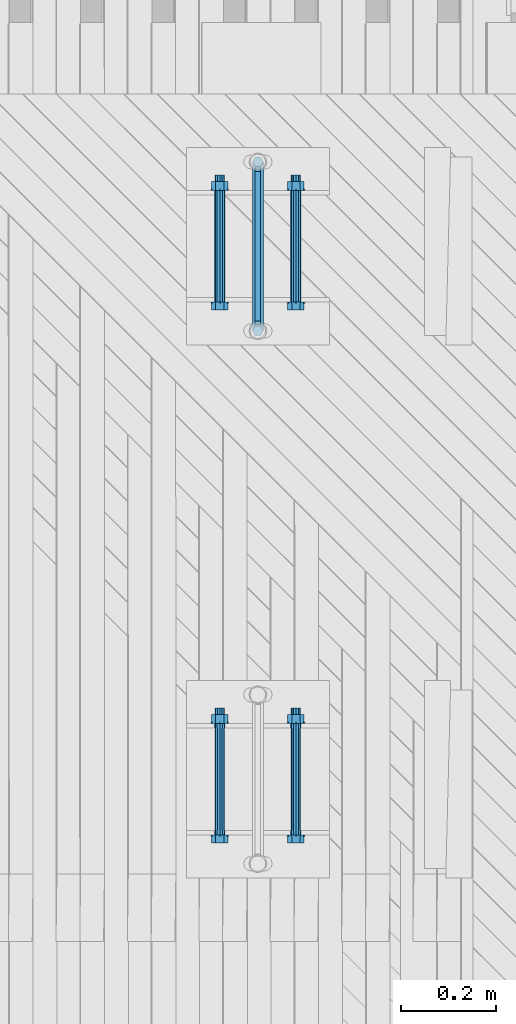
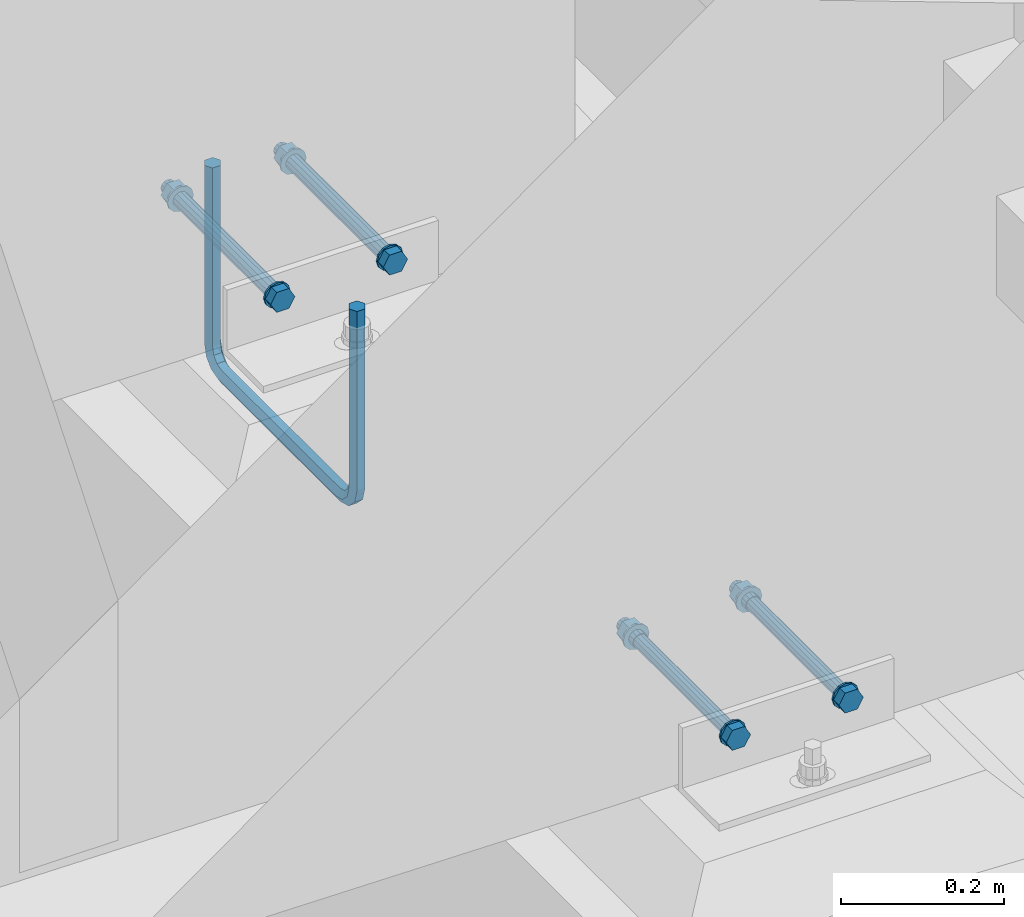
# One storey, part 3 of 47: 2 mechanical fasteners, 2 reinforcing bars.
"""IFC2X3 building model written with IfcOpenShell, lengths in millimetres."""

from ifc_helpers import new_model, si_unit, frame, origin_with_axes, place, context, subcontext, project, spatial, faceted_brep, source, transform, mapped, material, type_object, element, save


model = new_model("IFC2X3")

# Units and contexts
model_context = context("Model", 3, precision=1e-05, world=origin_with_axes())
body_context = subcontext(model_context, "Body", "Model", "MODEL_VIEW")
ifc_project = project(units=[si_unit("LENGTHUNIT", "METRE", prefix="MILLI"), si_unit("AREAUNIT", "SQUARE_METRE"), si_unit("VOLUMEUNIT", "CUBIC_METRE"), si_unit("MASSUNIT", "GRAM", prefix="KILO"), si_unit("TIMEUNIT", "SECOND"), si_unit("PLANEANGLEUNIT", "RADIAN"), si_unit("SOLIDANGLEUNIT", "STERADIAN"), si_unit("THERMODYNAMICTEMPERATUREUNIT", "DEGREE_CELSIUS"), si_unit("LUMINOUSINTENSITYUNIT", "LUMEN")], contexts=[model_context])

# Site, building, storey
site_placement = place(None, origin_with_axes())
site = spatial("IfcSite", under=ifc_project, at=site_placement, Name="Undefined", CompositionType="ELEMENT")
building_placement = place(site_placement, origin_with_axes())
building = spatial("IfcBuilding", under=site, at=building_placement, Name="Undefined", CompositionType="ELEMENT")
storey_placement = place(building_placement, origin_with_axes())
storey = spatial("IfcBuildingStorey", under=building, at=storey_placement, Name="Undefined", CompositionType="ELEMENT", Elevation=0.0)

# Reinforcing bars
ifc_material_1 = material(Name="A500HW")
shared_shape_1 = source(origin_with_axes(), body_context, "Body", "Brep", [
    faceted_brep([(9.95929214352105, -5.74999999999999, -1.31778448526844e-16), (9.95929214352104, 5.75000000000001, -1.31778448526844e-16), (-4.46864767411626e-15, 11.5, 5.31556664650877e-32), (-9.95929214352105, 5.75, 1.31778448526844e-16), (-9.95929214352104, -5.75, 1.31778448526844e-16), (0.0, -11.5, 0.0), (-9.95929214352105, -5.75, -268.5), (-3.5527136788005e-15, -11.5, -268.5), (-9.95929214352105, 5.75, -268.5), (-8.02136135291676e-15, 11.5, -268.5), (9.95929214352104, 5.75000000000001, -268.5), (9.95929214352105, -5.74999999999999, -268.5), (-4.40480021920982, -5.75, -289.229646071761), (4.22019978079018, -11.5, -284.25), (-4.40480021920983, 5.75, -289.229646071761), (4.22019978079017, 11.5, -284.25), (12.8451997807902, 5.75000000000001, -279.27035392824), (12.8451997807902, -5.74999999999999, -279.27035392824), (10.7703539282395, -5.75, -304.40480021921), (15.75, -11.5, -295.77980021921), (10.7703539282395, 5.75, -304.40480021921), (15.75, 11.5, -295.77980021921), (20.7296460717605, 5.75000000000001, -287.15480021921), (20.7296460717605, -5.74999999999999, -287.15480021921), (31.5, -5.75, -309.959292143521), (31.5, -11.5, -300.0), (31.5, 5.75, -309.959292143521), (31.5, 11.5, -300.0), (31.5, 5.75000000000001, -290.040707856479), (31.5, -5.74999999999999, -290.040707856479), (323.5, -5.75, -309.959292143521), (323.5, -11.5, -300.0), (323.5, 5.75, -309.959292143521), (323.5, 11.5, -300.0), (323.5, 5.75000000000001, -290.040707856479), (323.5, -5.74999999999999, -290.040707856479), (344.229646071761, -5.75, -304.40480021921), (339.25, -11.5, -295.77980021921), (344.229646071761, 5.75, -304.40480021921), (339.25, 11.5, -295.77980021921), (334.270353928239, 5.75000000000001, -287.15480021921), (334.270353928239, -5.74999999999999, -287.15480021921), (359.40480021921, -5.75, -289.229646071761), (350.77980021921, -11.5, -284.25), (359.40480021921, 5.75, -289.229646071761), (350.77980021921, 11.5, -284.25), (342.15480021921, 5.75000000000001, -279.27035392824), (342.15480021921, -5.74999999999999, -279.27035392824), (364.959292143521, -5.75, -268.5), (355.0, -11.5, -268.5), (364.959292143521, 5.75, -268.5), (355.0, 11.5, -268.5), (345.040707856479, 5.75000000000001, -268.5), (345.040707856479, -5.74999999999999, -268.5), (364.959292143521, -5.75, 0.0), (355.0, -11.5, 0.0), (364.959292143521, 5.75, 0.0), (355.0, 11.5, 0.0), (345.040707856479, 5.75000000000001, 0.0), (345.040707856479, -5.74999999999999, 0.0)], [[[0, 1, 2, 3, 4, 5]], [[5, 4, 6, 7]], [[4, 3, 8, 6]], [[3, 2, 9, 8]], [[2, 1, 10, 9]], [[1, 0, 11, 10]], [[0, 5, 7, 11]], [[7, 6, 12, 13]], [[6, 8, 14, 12]], [[8, 9, 15, 14]], [[9, 10, 16, 15]], [[10, 11, 17, 16]], [[11, 7, 13, 17]], [[13, 12, 18, 19]], [[12, 14, 20, 18]], [[14, 15, 21, 20]], [[15, 16, 22, 21]], [[16, 17, 23, 22]], [[17, 13, 19, 23]], [[19, 18, 24, 25]], [[18, 20, 26, 24]], [[20, 21, 27, 26]], [[21, 22, 28, 27]], [[22, 23, 29, 28]], [[23, 19, 25, 29]], [[25, 24, 30, 31]], [[24, 26, 32, 30]], [[26, 27, 33, 32]], [[27, 28, 34, 33]], [[28, 29, 35, 34]], [[29, 25, 31, 35]], [[31, 30, 36, 37]], [[30, 32, 38, 36]], [[32, 33, 39, 38]], [[33, 34, 40, 39]], [[34, 35, 41, 40]], [[35, 31, 37, 41]], [[37, 36, 42, 43]], [[36, 38, 44, 42]], [[38, 39, 45, 44]], [[39, 40, 46, 45]], [[40, 41, 47, 46]], [[41, 37, 43, 47]], [[43, 42, 48, 49]], [[42, 44, 50, 48]], [[44, 45, 51, 50]], [[45, 46, 52, 51]], [[46, 47, 53, 52]], [[47, 43, 49, 53]], [[49, 48, 54, 55]], [[48, 50, 56, 54]], [[50, 51, 57, 56]], [[51, 52, 58, 57]], [[52, 53, 59, 58]], [[53, 49, 55, 59]], [[55, 54, 56, 57, 58, 59]]]),
])
for number, where, z_axis, x_axis, name in (
    (1, (16000.0, 64222.5000000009, 1615.32999999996), (0.0, 0.0, 1.0), (0.0, -1.0, 0.0), "REBAR"),
    (2, (16000.0, 64222.5000000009, 1615.32999999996), (0.0, 0.0, 1.0), (0.0, -1.0, 0.0), "REBAR"),
):
    element("IfcReinforcingBar", number, at=place(storey_placement, frame(where, z_axis=z_axis, x_axis=x_axis)), inside=storey, material=ifc_material_1, Name=name, BarRole="NOTDEFINED", CrossSectionArea=0.0, NominalDiameter=23.0, context=body_context, shape_type="MappedRepresentation", body=[
        mapped(shared_shape_1, transform((0.0, 0.0, 420.0))),
    ])

# Mechanical fasteners
ifc_material_2 = material(Name="Undefined")
mechanical_fastener_type = type_object("IfcMechanicalFastenerType", Name="Bolt assembly")
shared_shape_2 = source(origin_with_axes(), body_context, "Body", "Brep", [
    faceted_brep([(17.3205080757, -238.7, 0.0), (8.66025403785, -238.7, 15.0000000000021), (-8.66025403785, -238.7, 15.0000000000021), (-17.3205080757, -238.7, 0.0), (-8.66025403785, -238.7, -15.0000000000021), (8.66025403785, -238.7, -15.0000000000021), (8.66025403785, -225.5, -15.0000000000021), (-8.66025403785, -225.5, -15.0000000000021), (-17.3205080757, -225.5, 0.0), (-8.66025403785, -225.5, 15.0000000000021), (8.66025403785, -225.5, 15.0000000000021), (17.3205080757, -225.5, 0.0), (10.0, -225.5, 0.0), (8.66025403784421, -225.5, 5.0000000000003), (4.9999999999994, -225.5, 8.66025403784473), (-1.03633598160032e-12, -225.5, 10.0), (-5.00000000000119, -225.5, 8.6602540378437), (-8.66025403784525, -225.5, 4.99999999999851), (-10.0, -225.5, -2.07267196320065e-12), (-8.66025403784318, -225.5, -5.00000000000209), (-4.99999999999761, -225.5, -8.66025403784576), (3.09790571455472e-12, -225.5, -10.0), (5.00000000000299, -225.5, -8.66025403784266), (8.66025403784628, -225.5, -4.99999999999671), (8.66025403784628, 44.5, -4.99999999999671), (5.00000000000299, 44.5, -8.66025403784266), (3.09790571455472e-12, 44.5, -10.0), (-4.99999999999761, 44.5, -8.66025403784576), (-8.66025403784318, 44.5, -5.00000000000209), (-10.0, 44.5, -2.07267196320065e-12), (-8.66025403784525, 44.5, 4.99999999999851), (-5.00000000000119, 44.5, 8.6602540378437), (-1.03633598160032e-12, 44.5, 10.0), (4.9999999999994, 44.5, 8.66025403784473), (8.66025403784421, 44.5, 5.0000000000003), (10.0, 44.5, 0.0), (18.5, -225.5, 0.0), (16.0214699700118, -225.5, 9.25000000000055), (9.2499999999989, -225.5, 16.0214699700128), (-1.9172215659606e-12, -225.5, 18.5), (-9.25000000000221, -225.5, 16.0214699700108), (-16.0214699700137, -225.5, 9.24999999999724), (-18.5, -225.5, -3.83444313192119e-12), (-16.0214699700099, -225.5, -9.25000000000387), (-9.24999999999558, -225.5, -16.0214699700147), (5.73112557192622e-12, -225.5, -18.5), (9.25000000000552, -225.5, -16.0214699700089), (16.0214699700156, -225.5, -9.24999999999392), (16.0214699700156, -222.5, -9.24999999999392), (9.25000000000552, -222.5, -16.0214699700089), (5.73112557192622e-12, -222.5, -18.5), (-9.24999999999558, -222.5, -16.0214699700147), (-16.0214699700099, -222.5, -9.25000000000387), (-18.5, -222.5, -3.83444313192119e-12), (-16.0214699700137, -222.5, 9.24999999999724), (-9.25000000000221, -222.5, 16.0214699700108), (-1.9172215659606e-12, -222.5, 18.5), (9.2499999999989, -222.5, 16.0214699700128), (16.0214699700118, -222.5, 9.25000000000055), (18.5, -222.5, 0.0), (18.5, 12.5, 0.0), (16.0214699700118, 12.5, 9.25000000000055), (9.2499999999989, 12.5, 16.0214699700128), (-1.9172215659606e-12, 12.5, 18.5), (-9.25000000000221, 12.5, 16.0214699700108), (-16.0214699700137, 12.5, 9.24999999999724), (-18.5, 12.5, -3.83444313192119e-12), (-16.0214699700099, 12.5, -9.25000000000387), (-9.24999999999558, 12.5, -16.0214699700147), (5.73112557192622e-12, 12.5, -18.5), (9.25000000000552, 12.5, -16.0214699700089), (16.0214699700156, 12.5, -9.24999999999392), (16.0214699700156, 15.5, -9.24999999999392), (9.25000000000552, 15.5, -16.0214699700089), (5.73112557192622e-12, 15.5, -18.5), (-9.24999999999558, 15.5, -16.0214699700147), (-16.0214699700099, 15.5, -9.25000000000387), (-18.5, 15.5, -3.83444313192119e-12), (-16.0214699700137, 15.5, 9.24999999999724), (-9.25000000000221, 15.5, 16.0214699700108), (-1.9172215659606e-12, 15.5, 18.5), (9.2499999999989, 15.5, 16.0214699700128), (16.0214699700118, 15.5, 9.25000000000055), (18.5, 15.5, 0.0), (17.3205080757, 15.5, 0.0), (8.66025403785, 15.5, 15.0000000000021), (-8.66025403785, 15.5, 15.0000000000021), (-17.3205080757, 15.5, 0.0), (-8.66025403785, 15.5, -15.0000000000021), (8.66025403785, 15.5, -15.0000000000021), (8.66025403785, 31.5, -15.0000000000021), (-8.66025403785, 31.5, -15.0000000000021), (-17.3205080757, 31.5, 0.0), (-8.66025403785, 31.5, 15.0000000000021), (8.66025403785, 31.5, 15.0000000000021), (17.3205080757, 31.5, 0.0)], [[[0, 1, 2, 3, 4, 5]], [[6, 7, 8, 9, 10, 11]], [[0, 11, 10, 1]], [[1, 10, 9, 2]], [[2, 9, 8, 3]], [[3, 8, 7, 4]], [[4, 7, 6, 5]], [[5, 6, 11, 0]], [[12, 13, 14, 15, 16, 17, 18, 19, 20, 21, 22, 23]], [[24, 25, 26, 27, 28, 29, 30, 31, 32, 33, 34, 35]], [[12, 35, 34, 13]], [[13, 34, 33, 14]], [[14, 33, 32, 15]], [[15, 32, 31, 16]], [[16, 31, 30, 17]], [[17, 30, 29, 18]], [[18, 29, 28, 19]], [[19, 28, 27, 20]], [[20, 27, 26, 21]], [[21, 26, 25, 22]], [[22, 25, 24, 23]], [[23, 24, 35, 12]], [[36, 37, 38, 39, 40, 41, 42, 43, 44, 45, 46, 47]], [[48, 49, 50, 51, 52, 53, 54, 55, 56, 57, 58, 59]], [[36, 59, 58, 37]], [[37, 58, 57, 38]], [[38, 57, 56, 39]], [[39, 56, 55, 40]], [[40, 55, 54, 41]], [[41, 54, 53, 42]], [[42, 53, 52, 43]], [[43, 52, 51, 44]], [[44, 51, 50, 45]], [[45, 50, 49, 46]], [[46, 49, 48, 47]], [[47, 48, 59, 36]], [[60, 61, 62, 63, 64, 65, 66, 67, 68, 69, 70, 71]], [[72, 73, 74, 75, 76, 77, 78, 79, 80, 81, 82, 83]], [[60, 83, 82, 61]], [[61, 82, 81, 62]], [[62, 81, 80, 63]], [[63, 80, 79, 64]], [[64, 79, 78, 65]], [[65, 78, 77, 66]], [[66, 77, 76, 67]], [[67, 76, 75, 68]], [[68, 75, 74, 69]], [[69, 74, 73, 70]], [[70, 73, 72, 71]], [[71, 72, 83, 60]], [[84, 85, 86, 87, 88, 89]], [[90, 91, 92, 93, 94, 95]], [[84, 95, 94, 85]], [[85, 94, 93, 86]], [[86, 93, 92, 87]], [[87, 92, 91, 88]], [[88, 91, 90, 89]], [[89, 90, 95, 84]]]),
    faceted_brep([(11.0, -222.4, 0.0), (9.52627944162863, -222.4, 5.50000000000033), (5.49999999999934, -222.4, 9.5262794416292), (-1.13996957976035e-12, -222.4, 11.0), (-5.50000000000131, -222.4, 9.52627944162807), (-9.52627944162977, -222.4, 5.49999999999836), (-11.0, -222.4, -2.27993915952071e-12), (-9.5262794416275, -222.4, -5.5000000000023), (-5.49999999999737, -222.4, -9.52627944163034), (3.40769628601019e-12, -222.4, -11.0), (5.50000000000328, -222.4, -9.52627944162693), (9.52627944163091, -222.4, -5.49999999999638), (9.52627944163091, -212.4, -5.49999999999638), (5.50000000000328, -212.4, -9.52627944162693), (3.40769628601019e-12, -212.4, -11.0), (-5.49999999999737, -212.4, -9.52627944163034), (-9.5262794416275, -212.4, -5.5000000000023), (-11.0, -212.4, -2.27993915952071e-12), (-9.52627944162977, -212.4, 5.49999999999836), (-5.50000000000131, -212.4, 9.52627944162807), (-1.13996957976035e-12, -212.4, 11.0), (5.49999999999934, -212.4, 9.5262794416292), (9.52627944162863, -212.4, 5.50000000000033), (11.0, -212.4, 0.0), (11.0, 2.4, 0.0), (9.52627944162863, 2.4, 5.50000000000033), (5.49999999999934, 2.4, 9.5262794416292), (-1.13996957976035e-12, 2.4, 11.0), (-5.50000000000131, 2.4, 9.52627944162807), (-9.52627944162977, 2.4, 5.49999999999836), (-11.0, 2.4, -2.27993915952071e-12), (-9.5262794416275, 2.4, -5.5000000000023), (-5.49999999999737, 2.4, -9.52627944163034), (3.40769628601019e-12, 2.4, -11.0), (5.50000000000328, 2.4, -9.52627944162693), (9.52627944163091, 2.4, -5.49999999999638), (9.52627944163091, 12.5, -5.49999999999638), (5.50000000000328, 12.5, -9.52627944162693), (3.40769628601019e-12, 12.5, -11.0), (-5.49999999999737, 12.5, -9.52627944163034), (-9.5262794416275, 12.5, -5.5000000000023), (-11.0, 12.5, -2.27993915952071e-12), (-9.52627944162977, 12.5, 5.49999999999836), (-5.50000000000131, 12.5, 9.52627944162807), (-1.13996957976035e-12, 12.5, 11.0), (5.49999999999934, 12.5, 9.5262794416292), (9.52627944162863, 12.5, 5.50000000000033), (11.0, 12.5, 0.0)], [[[0, 1, 2, 3, 4, 5, 6, 7, 8, 9, 10, 11]], [[12, 13, 14, 15, 16, 17, 18, 19, 20, 21, 22, 23]], [[0, 23, 22, 1]], [[1, 22, 21, 2]], [[2, 21, 20, 3]], [[3, 20, 19, 4]], [[4, 19, 18, 5]], [[5, 18, 17, 6]], [[6, 17, 16, 7]], [[7, 16, 15, 8]], [[8, 15, 14, 9]], [[9, 14, 13, 10]], [[10, 13, 12, 11]], [[11, 12, 23, 0]], [[24, 25, 26, 27, 28, 29, 30, 31, 32, 33, 34, 35]], [[36, 37, 38, 39, 40, 41, 42, 43, 44, 45, 46, 47]], [[24, 47, 46, 25]], [[25, 46, 45, 26]], [[26, 45, 44, 27]], [[27, 44, 43, 28]], [[28, 43, 42, 29]], [[29, 42, 41, 30]], [[30, 41, 40, 31]], [[31, 40, 39, 32]], [[32, 39, 38, 33]], [[33, 38, 37, 34]], [[34, 37, 36, 35]], [[35, 36, 47, 24]]]),
])
mechanical_fastener_1_placement = place(storey_placement, frame((16080.0, 63030.0000000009, 2067.33), z_axis=(0.0, 0.0, -1.0), x_axis=(-1.0, 0.0, 0.0)))
element("IfcMechanicalFastener", 3, at=mechanical_fastener_1_placement, inside=storey, type_object=mechanical_fastener_type, material=ifc_material_2, Name="Bolt assembly", NominalDiameter=20.0, NominalLength=270.0, context=body_context, shape_type="MappedRepresentation", body=[
    mapped(shared_shape_2, transform((0.0, 0.0, 0.0))),
    mapped(shared_shape_2, transform((160.0, 0.0, 0.0))),
])
shared_shape_3 = source(origin_with_axes(), body_context, "Body", "Brep", [
    faceted_brep([(17.3205080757, -238.7, 0.0), (8.66025403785, -238.7, 15.0000000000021), (-8.66025403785, -238.7, 15.0000000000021), (-17.3205080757, -238.7, 0.0), (-8.66025403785, -238.7, -15.0000000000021), (8.66025403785, -238.7, -15.0000000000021), (8.66025403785, -225.5, -15.0000000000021), (-8.66025403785, -225.5, -15.0000000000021), (-17.3205080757, -225.5, 0.0), (-8.66025403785, -225.5, 15.0000000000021), (8.66025403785, -225.5, 15.0000000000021), (17.3205080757, -225.5, 0.0), (10.0, -225.5, 0.0), (8.66025403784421, -225.5, 5.0000000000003), (4.9999999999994, -225.5, 8.66025403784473), (-1.03633598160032e-12, -225.5, 10.0), (-5.00000000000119, -225.5, 8.6602540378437), (-8.66025403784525, -225.5, 4.99999999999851), (-10.0, -225.5, -2.07267196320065e-12), (-8.66025403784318, -225.5, -5.00000000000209), (-4.99999999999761, -225.5, -8.66025403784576), (3.09790571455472e-12, -225.5, -10.0), (5.00000000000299, -225.5, -8.66025403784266), (8.66025403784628, -225.5, -4.99999999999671), (8.66025403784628, 44.5, -4.99999999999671), (5.00000000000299, 44.5, -8.66025403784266), (3.09790571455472e-12, 44.5, -10.0), (-4.99999999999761, 44.5, -8.66025403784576), (-8.66025403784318, 44.5, -5.00000000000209), (-10.0, 44.5, -2.07267196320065e-12), (-8.66025403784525, 44.5, 4.99999999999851), (-5.00000000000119, 44.5, 8.6602540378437), (-1.03633598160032e-12, 44.5, 10.0), (4.9999999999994, 44.5, 8.66025403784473), (8.66025403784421, 44.5, 5.0000000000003), (10.0, 44.5, 0.0), (18.5, -225.5, 0.0), (16.0214699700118, -225.5, 9.25000000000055), (9.2499999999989, -225.5, 16.0214699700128), (-1.9172215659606e-12, -225.5, 18.5), (-9.25000000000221, -225.5, 16.0214699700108), (-16.0214699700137, -225.5, 9.24999999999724), (-18.5, -225.5, -3.83444313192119e-12), (-16.0214699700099, -225.5, -9.25000000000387), (-9.24999999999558, -225.5, -16.0214699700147), (5.73112557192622e-12, -225.5, -18.5), (9.25000000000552, -225.5, -16.0214699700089), (16.0214699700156, -225.5, -9.24999999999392), (16.0214699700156, -222.5, -9.24999999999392), (9.25000000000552, -222.5, -16.0214699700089), (5.73112557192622e-12, -222.5, -18.5), (-9.24999999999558, -222.5, -16.0214699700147), (-16.0214699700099, -222.5, -9.25000000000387), (-18.5, -222.5, -3.83444313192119e-12), (-16.0214699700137, -222.5, 9.24999999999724), (-9.25000000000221, -222.5, 16.0214699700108), (-1.9172215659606e-12, -222.5, 18.5), (9.2499999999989, -222.5, 16.0214699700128), (16.0214699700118, -222.5, 9.25000000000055), (18.5, -222.5, 0.0), (18.5, 12.5, 0.0), (16.0214699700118, 12.5, 9.25000000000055), (9.2499999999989, 12.5, 16.0214699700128), (-1.9172215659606e-12, 12.5, 18.5), (-9.25000000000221, 12.5, 16.0214699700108), (-16.0214699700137, 12.5, 9.24999999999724), (-18.5, 12.5, -3.83444313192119e-12), (-16.0214699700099, 12.5, -9.25000000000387), (-9.24999999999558, 12.5, -16.0214699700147), (5.73112557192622e-12, 12.5, -18.5), (9.25000000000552, 12.5, -16.0214699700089), (16.0214699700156, 12.5, -9.24999999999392), (16.0214699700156, 15.5, -9.24999999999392), (9.25000000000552, 15.5, -16.0214699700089), (5.73112557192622e-12, 15.5, -18.5), (-9.24999999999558, 15.5, -16.0214699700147), (-16.0214699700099, 15.5, -9.25000000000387), (-18.5, 15.5, -3.83444313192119e-12), (-16.0214699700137, 15.5, 9.24999999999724), (-9.25000000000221, 15.5, 16.0214699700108), (-1.9172215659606e-12, 15.5, 18.5), (9.2499999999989, 15.5, 16.0214699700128), (16.0214699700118, 15.5, 9.25000000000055), (18.5, 15.5, 0.0), (17.3205080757, 15.5, 0.0), (8.66025403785, 15.5, 15.0000000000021), (-8.66025403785, 15.5, 15.0000000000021), (-17.3205080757, 15.5, 0.0), (-8.66025403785, 15.5, -15.0000000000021), (8.66025403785, 15.5, -15.0000000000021), (8.66025403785, 31.5, -15.0000000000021), (-8.66025403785, 31.5, -15.0000000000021), (-17.3205080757, 31.5, 0.0), (-8.66025403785, 31.5, 15.0000000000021), (8.66025403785, 31.5, 15.0000000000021), (17.3205080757, 31.5, 0.0)], [[[0, 1, 2, 3, 4, 5]], [[6, 7, 8, 9, 10, 11]], [[0, 11, 10, 1]], [[1, 10, 9, 2]], [[2, 9, 8, 3]], [[3, 8, 7, 4]], [[4, 7, 6, 5]], [[5, 6, 11, 0]], [[12, 13, 14, 15, 16, 17, 18, 19, 20, 21, 22, 23]], [[24, 25, 26, 27, 28, 29, 30, 31, 32, 33, 34, 35]], [[12, 35, 34, 13]], [[13, 34, 33, 14]], [[14, 33, 32, 15]], [[15, 32, 31, 16]], [[16, 31, 30, 17]], [[17, 30, 29, 18]], [[18, 29, 28, 19]], [[19, 28, 27, 20]], [[20, 27, 26, 21]], [[21, 26, 25, 22]], [[22, 25, 24, 23]], [[23, 24, 35, 12]], [[36, 37, 38, 39, 40, 41, 42, 43, 44, 45, 46, 47]], [[48, 49, 50, 51, 52, 53, 54, 55, 56, 57, 58, 59]], [[36, 59, 58, 37]], [[37, 58, 57, 38]], [[38, 57, 56, 39]], [[39, 56, 55, 40]], [[40, 55, 54, 41]], [[41, 54, 53, 42]], [[42, 53, 52, 43]], [[43, 52, 51, 44]], [[44, 51, 50, 45]], [[45, 50, 49, 46]], [[46, 49, 48, 47]], [[47, 48, 59, 36]], [[60, 61, 62, 63, 64, 65, 66, 67, 68, 69, 70, 71]], [[72, 73, 74, 75, 76, 77, 78, 79, 80, 81, 82, 83]], [[60, 83, 82, 61]], [[61, 82, 81, 62]], [[62, 81, 80, 63]], [[63, 80, 79, 64]], [[64, 79, 78, 65]], [[65, 78, 77, 66]], [[66, 77, 76, 67]], [[67, 76, 75, 68]], [[68, 75, 74, 69]], [[69, 74, 73, 70]], [[70, 73, 72, 71]], [[71, 72, 83, 60]], [[84, 85, 86, 87, 88, 89]], [[90, 91, 92, 93, 94, 95]], [[84, 95, 94, 85]], [[85, 94, 93, 86]], [[86, 93, 92, 87]], [[87, 92, 91, 88]], [[88, 91, 90, 89]], [[89, 90, 95, 84]]]),
    faceted_brep([(11.0, 2.4, 0.0), (9.52627944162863, 2.4, 5.50000000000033), (5.49999999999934, 2.4, 9.5262794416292), (-1.13996957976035e-12, 2.4, 11.0), (-5.50000000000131, 2.4, 9.52627944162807), (-9.52627944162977, 2.4, 5.49999999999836), (-11.0, 2.4, -2.27993915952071e-12), (-9.5262794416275, 2.4, -5.5000000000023), (-5.49999999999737, 2.4, -9.52627944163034), (3.40769628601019e-12, 2.4, -11.0), (5.50000000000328, 2.4, -9.52627944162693), (9.52627944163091, 2.4, -5.49999999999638), (9.52627944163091, 12.5, -5.49999999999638), (5.50000000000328, 12.5, -9.52627944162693), (3.40769628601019e-12, 12.5, -11.0), (-5.49999999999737, 12.5, -9.52627944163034), (-9.5262794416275, 12.5, -5.5000000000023), (-11.0, 12.5, -2.27993915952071e-12), (-9.52627944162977, 12.5, 5.49999999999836), (-5.50000000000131, 12.5, 9.52627944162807), (-1.13996957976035e-12, 12.5, 11.0), (5.49999999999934, 12.5, 9.5262794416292), (9.52627944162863, 12.5, 5.50000000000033), (11.0, 12.5, 0.0), (11.0, -212.500000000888, 0.0), (9.52627944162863, -212.500000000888, 5.50000000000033), (5.49999999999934, -212.500000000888, 9.5262794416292), (-1.13996957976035e-12, -212.500000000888, 11.0), (-5.50000000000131, -212.500000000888, 9.52627944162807), (-9.52627944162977, -212.500000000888, 5.49999999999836), (-11.0, -212.500000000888, -2.27993915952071e-12), (-9.5262794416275, -212.500000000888, -5.5000000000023), (-5.49999999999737, -212.500000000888, -9.52627944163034), (3.40769628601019e-12, -212.500000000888, -11.0), (5.50000000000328, -212.500000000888, -9.52627944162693), (9.52627944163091, -212.500000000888, -5.49999999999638), (9.52627944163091, 2.49999999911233, -5.49999999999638), (5.50000000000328, 2.49999999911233, -9.52627944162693), (3.40769628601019e-12, 2.49999999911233, -11.0), (-5.49999999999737, 2.49999999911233, -9.52627944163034), (-9.5262794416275, 2.49999999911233, -5.5000000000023), (-11.0, 2.49999999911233, -2.27993915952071e-12), (-9.52627944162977, 2.49999999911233, 5.49999999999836), (-5.50000000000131, 2.49999999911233, 9.52627944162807), (-1.13996957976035e-12, 2.49999999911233, 11.0), (5.49999999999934, 2.49999999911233, 9.5262794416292), (9.52627944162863, 2.49999999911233, 5.50000000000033), (11.0, 2.49999999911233, 0.0), (11.0, -222.4, 0.0), (9.52627944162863, -222.4, 5.50000000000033), (5.49999999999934, -222.4, 9.5262794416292), (-1.13996957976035e-12, -222.4, 11.0), (-5.50000000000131, -222.4, 9.52627944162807), (-9.52627944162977, -222.4, 5.49999999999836), (-11.0, -222.4, -2.27993915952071e-12), (-9.5262794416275, -222.4, -5.5000000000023), (-5.49999999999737, -222.4, -9.52627944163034), (3.40769628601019e-12, -222.4, -11.0), (5.50000000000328, -222.4, -9.52627944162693), (9.52627944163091, -222.4, -5.49999999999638), (9.52627944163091, -212.4, -5.49999999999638), (5.50000000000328, -212.4, -9.52627944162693), (3.40769628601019e-12, -212.4, -11.0), (-5.49999999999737, -212.4, -9.52627944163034), (-9.5262794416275, -212.4, -5.5000000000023), (-11.0, -212.4, -2.27993915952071e-12), (-9.52627944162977, -212.4, 5.49999999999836), (-5.50000000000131, -212.4, 9.52627944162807), (-1.13996957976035e-12, -212.4, 11.0), (5.49999999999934, -212.4, 9.5262794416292), (9.52627944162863, -212.4, 5.50000000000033), (11.0, -212.4, 0.0)], [[[0, 1, 2, 3, 4, 5, 6, 7, 8, 9, 10, 11]], [[12, 13, 14, 15, 16, 17, 18, 19, 20, 21, 22, 23]], [[0, 23, 22, 1]], [[1, 22, 21, 2]], [[2, 21, 20, 3]], [[3, 20, 19, 4]], [[4, 19, 18, 5]], [[5, 18, 17, 6]], [[6, 17, 16, 7]], [[7, 16, 15, 8]], [[8, 15, 14, 9]], [[9, 14, 13, 10]], [[10, 13, 12, 11]], [[11, 12, 23, 0]], [[24, 25, 26, 27, 28, 29, 30, 31, 32, 33, 34, 35]], [[36, 37, 38, 39, 40, 41, 42, 43, 44, 45, 46, 47]], [[24, 47, 46, 25]], [[25, 46, 45, 26]], [[26, 45, 44, 27]], [[27, 44, 43, 28]], [[28, 43, 42, 29]], [[29, 42, 41, 30]], [[30, 41, 40, 31]], [[31, 40, 39, 32]], [[32, 39, 38, 33]], [[33, 38, 37, 34]], [[34, 37, 36, 35]], [[35, 36, 47, 24]], [[48, 49, 50, 51, 52, 53, 54, 55, 56, 57, 58, 59]], [[60, 61, 62, 63, 64, 65, 66, 67, 68, 69, 70, 71]], [[48, 71, 70, 49]], [[49, 70, 69, 50]], [[50, 69, 68, 51]], [[51, 68, 67, 52]], [[52, 67, 66, 53]], [[53, 66, 65, 54]], [[54, 65, 64, 55]], [[55, 64, 63, 56]], [[56, 63, 62, 57]], [[57, 62, 61, 58]], [[58, 61, 60, 59]], [[59, 60, 71, 48]]]),
])
mechanical_fastener_2_placement = place(storey_placement, frame((16080.0, 64150.0000000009, 2045.33), z_axis=(0.0, 0.0, -1.0), x_axis=(-1.0, 0.0, 0.0)))
element("IfcMechanicalFastener", 4, at=mechanical_fastener_2_placement, inside=storey, type_object=mechanical_fastener_type, material=ifc_material_2, Name="Bolt assembly", NominalDiameter=20.0, NominalLength=270.0, context=body_context, shape_type="MappedRepresentation", body=[
    mapped(shared_shape_3, transform((0.0, 0.0, 0.0))),
    mapped(shared_shape_3, transform((160.0, 0.0, 0.0))),
])

save(model, "model.ifc")
